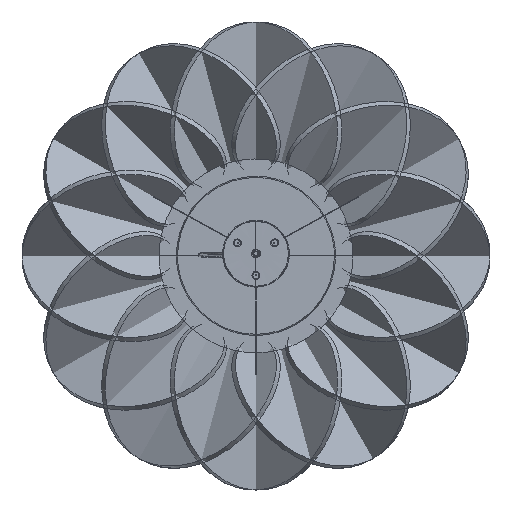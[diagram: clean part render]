
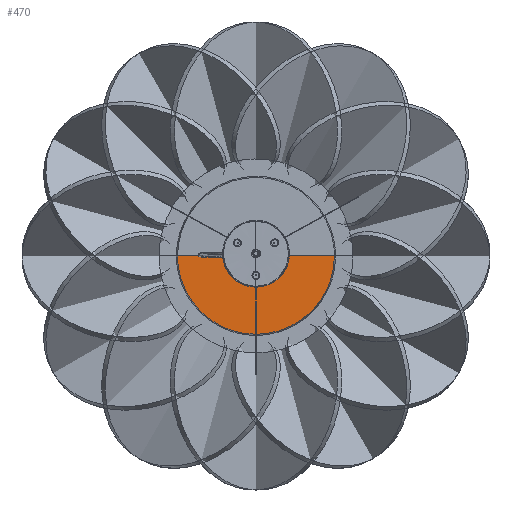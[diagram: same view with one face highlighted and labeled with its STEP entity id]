
A CAD part, top view. The second image highlights one B-rep face of the part: STEP entity #470.
In plain terms, the highlighted planar face has unit normal (0, 0, 1).
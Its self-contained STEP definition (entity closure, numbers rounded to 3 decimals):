
#74=(
BOUNDED_CURVE()
B_SPLINE_CURVE(2,(#15755,#15756,#15757,#15758,#15759),.UNSPECIFIED.,.F.,
 .F.)
B_SPLINE_CURVE_WITH_KNOTS((3,2,3),(455.168,682.752,910.335),
 .UNSPECIFIED.)
CURVE()
GEOMETRIC_REPRESENTATION_ITEM()
RATIONAL_B_SPLINE_CURVE((1.,0.707,1.,0.707,1.))
REPRESENTATION_ITEM('')
);
#470=ADVANCED_FACE('',(#709),#2972,.T.);
#709=FACE_OUTER_BOUND('',#948,.T.);
#948=EDGE_LOOP('',(#1534,#1535,#1536));
#1534=ORIENTED_EDGE('',*,*,#2159,.T.);
#1535=ORIENTED_EDGE('',*,*,#2175,.F.);
#1536=ORIENTED_EDGE('',*,*,#2174,.F.);
#2159=EDGE_CURVE('',#2784,#2791,#2594,.T.);
#2174=EDGE_CURVE('',#2784,#2793,#2602,.T.);
#2175=EDGE_CURVE('',#2793,#2791,#74,.T.);
#2594=B_SPLINE_CURVE_WITH_KNOTS('',1,(#15702,#15703),.UNSPECIFIED.,.F.,
 .F.,(2,2),(0.,117.27),.UNSPECIFIED.);
#2602=B_SPLINE_CURVE_WITH_KNOTS('',1,(#15753,#15754),.UNSPECIFIED.,.F.,
 .F.,(2,2),(0.,117.27),.UNSPECIFIED.);
#2784=VERTEX_POINT('',#15688);
#2791=VERTEX_POINT('',#15695);
#2793=VERTEX_POINT('',#15697);
#2972=PLANE('',#3228);
#3228=AXIS2_PLACEMENT_3D('',#15646,#3369,$);
#3369=DIRECTION('',(0.,0.,1.));
#15646=CARTESIAN_POINT('',(-1120.014,0.,234.652));
#15688=CARTESIAN_POINT('',(-1120.014,0.,234.652));
#15695=CARTESIAN_POINT('',(-1237.283,0.,234.652));
#15697=CARTESIAN_POINT('',(-1002.744,0.,234.652));
#15702=CARTESIAN_POINT('',(-1120.014,0.,234.652));
#15703=CARTESIAN_POINT('',(-1237.283,0.,234.652));
#15753=CARTESIAN_POINT('',(-1120.014,0.,234.652));
#15754=CARTESIAN_POINT('',(-1002.744,0.,234.652));
#15755=CARTESIAN_POINT('',(-1002.744,0.,234.652));
#15756=CARTESIAN_POINT('',(-1002.744,-117.27,234.652));
#15757=CARTESIAN_POINT('',(-1120.014,-117.27,234.652));
#15758=CARTESIAN_POINT('',(-1237.283,-117.27,234.652));
#15759=CARTESIAN_POINT('',(-1237.283,0.,234.652));
